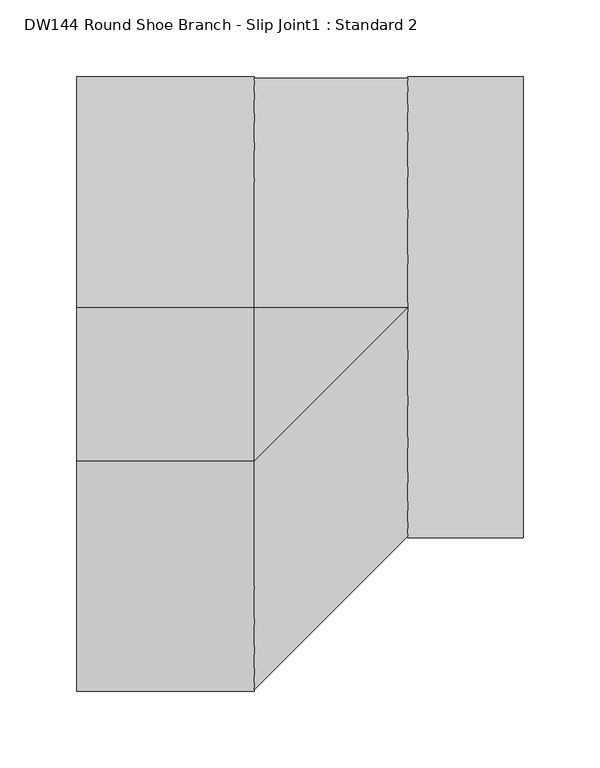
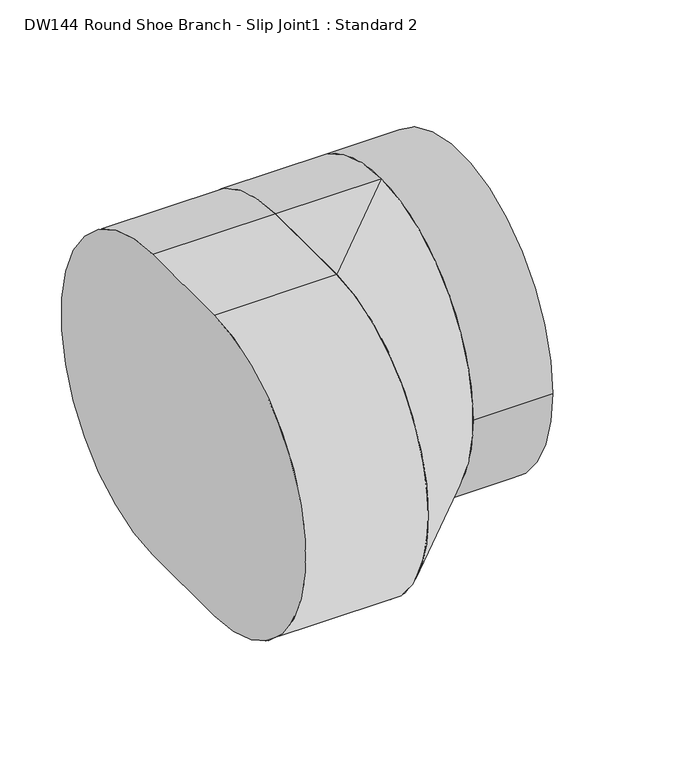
"""IFC4 building model written with IfcOpenShell, lengths in millimetres: duct fitting geometry, DW144 Round Shoe Branch - Slip Joint1 : Standard 2."""

from ifc_helpers import new_model, si_unit, point, frame, frame_2d, origin, origin_2d, place, context, project, spatial, polyline, circle_curve, trimmed, segment, composite_curve, outline, extrude, source, transform, mapped, element, save
from ifc_brep_helpers import plane_surface, cylinder_surface, extruded_surface, advanced_brep


def dw144_round_shoe_branch_slip_joint1_standard_2_78bd87b2(model_context):
    return source(origin(), model_context, "Body", "SolidModel", [
        extrude(outline(composite_curve([segment(trimmed(circle_curve(origin_2d(), 150.0), [point((-150.0, 0.0))], [point((150.0, 0.0))], False, "CARTESIAN"), True, "CONTINUOUS"), segment(trimmed(circle_curve(origin_2d(), 150.0), [point((150.0, 0.0))], [point((-150.0, 0.0))], False, "CARTESIAN"), True, "CONTINUOUS")], self_intersect=False)), frame((100.0, 0.0, 0.0), z_axis=(1.0, 0.0, 0.0), x_axis=(0.0, 1.0, 0.0)), (0.0, 0.0, 1.0), 75.0),
        advanced_brep(
        [(100.0, 0.0, -150.0), (100.0, 0.0, 150.0), (0.0, 0.0, -150.0), (0.0, -100.0, -150.0), (0.0, -100.0, 150.0), (0.0, 0.0, 150.0)],
        [
            (0, 1, circle_curve(frame((100.0, 0.0, 0.0), z_axis=(1.0, 0.0, 0.0), x_axis=(0.0, 1.0, 0.0)), 150.0)),
            (1, 0, circle_curve(frame((100.0, 0.0, 0.0), z_axis=(1.0, 0.0, 0.0), x_axis=(0.0, 1.0, 0.0)), 150.0)),
            (2, 3),
            (3, 4, circle_curve(frame((0.0, -100.0, 0.0), z_axis=(-1.0, 0.0, 0.0), x_axis=(0.0, 1.0, 0.0)), 150.0)),
            (4, 5),
            (5, 2, circle_curve(frame((0.0, 0.0, 0.0), z_axis=(-1.0, 0.0, 0.0), x_axis=(0.0, 1.0, 0.0)), 150.0)),
            (5, 1),
            (0, 2),
            (4, 1),
            (3, 0),
        ],
        [
            plane_surface(frame((100.0, 0.0, 0.0), z_axis=(1.0, 0.0, 0.0), x_axis=(0.0, 1.0, 0.0))),
            plane_surface(frame((0.0, -50.0, 0.0), z_axis=(-1.0, 0.0, 0.0), x_axis=(0.0, 1.0, 0.0))),
            cylinder_surface(frame((0.0, 0.0, 0.0), z_axis=(1.0, 0.0, 0.0), x_axis=(0.0, 1.0, 0.0)), 150.0),
            plane_surface(frame((0.0, -50.0, 150.0), z_axis=(0.0, 0.0, 1.0), x_axis=(0.0, -1.0, 0.0))),
            extruded_surface(trimmed(circle_curve(frame((0.0, -100.0, 0.0), z_axis=(1.0, 0.0, 0.0), x_axis=(0.0, 1.0, 0.0)), 150.0), [point((0.0, -100.0, 150.0))], [point((0.0, -100.0, -150.0))], True, "CARTESIAN"), (100.0, 100.0, 0.0), 141.4213562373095),
            plane_surface(frame((0.0, -50.0, -150.0), z_axis=(0.0, 0.0, -1.0), x_axis=(0.0, 1.0, 0.0))),
        ],
        [
            (0, [[1, 2]]),
            (1, [[3, 4, 5, 6]]),
            (2, [[-6, 7, -1, 8]]),
            (3, [[-5, 9, -7]]),
            (4, [[-4, 10, -2, -9]]),
            (5, [[-3, -8, -10]]),
        ],
    ),
        extrude(outline(composite_curve([segment(polyline([(0.0, -150.0), (-100.0, -150.0)]), True, "CONTINUOUS"), segment(trimmed(circle_curve(frame_2d((-100.0, 0.0)), 150.0), [point((-100.0, -150.0))], [point((-100.0, 150.0))], False, "CARTESIAN"), True, "CONTINUOUS"), segment(polyline([(-100.0, 150.0), (0.0, 150.0)]), True, "CONTINUOUS"), segment(trimmed(circle_curve(origin_2d(), 150.0), [point((0.0, 150.0))], [point((0.0, -150.0))], False, "CARTESIAN"), True, "CONTINUOUS")], self_intersect=False)), frame((-115.5725682, 0.0, 0.0), z_axis=(1.0, 0.0, 0.0), x_axis=(0.0, 1.0, 0.0)), (0.0, 0.0, 1.0), 115.5725682),
    ])


if __name__ == "__main__":
    model = new_model("IFC4")
    model_context = context("Model", 3, world=origin())
    ifc_project = project(units=[si_unit("LENGTHUNIT", "METRE", prefix="MILLI")], contexts=[model_context])
    site = spatial("IfcSite", under=ifc_project)
    building = spatial("IfcBuilding", under=site)
    placement = place(None, origin())
    dw144_round_shoe_branch_slip_joint1_standard_2_shape = dw144_round_shoe_branch_slip_joint1_standard_2_78bd87b2(model_context)
    element("IfcDuctFitting", 1, ObjectType="DW144 Round Shoe Branch - Slip Joint1 : Standard 2", at=placement, inside=building, context=model_context, shape_type="MappedRepresentation", body=[
        mapped(dw144_round_shoe_branch_slip_joint1_standard_2_shape, transform((0.0, 0.0, 0.0), x_axis=(1.0, 0.0, 0.0), y_axis=(0.0, 1.0, 0.0), z_axis=(0.0, 0.0, 1.0))),
    ])
    save(model, "model.ifc")
